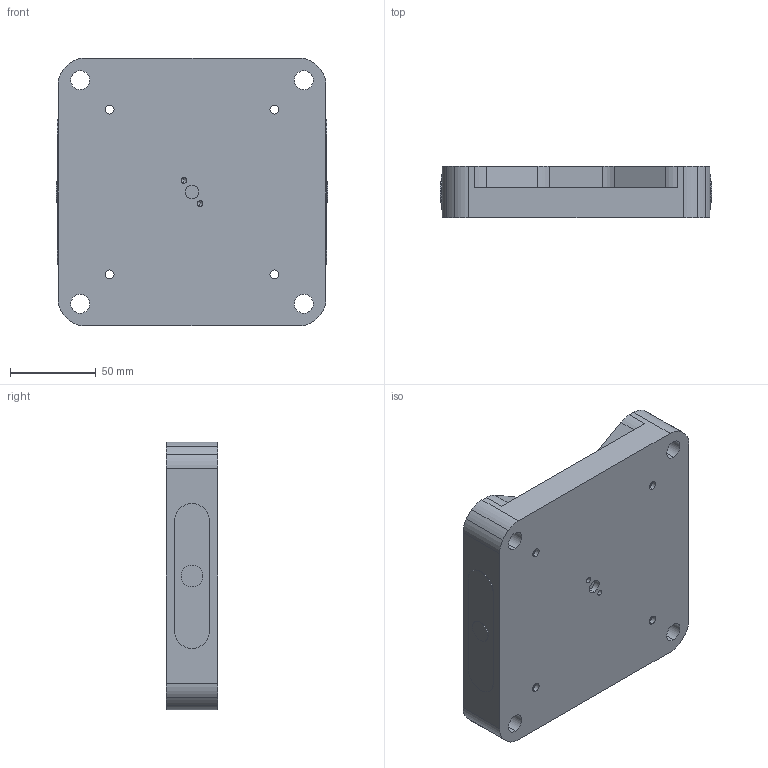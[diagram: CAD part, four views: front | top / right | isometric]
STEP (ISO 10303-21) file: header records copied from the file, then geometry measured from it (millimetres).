
FILE_DESCRIPTION (( 'STEP AP214' ), '1' );
FILE_NAME ('D_RL96A-6790.STEP', '2020-03-11T17:51:44', ( '' ), ( '' ), 'SwSTEP 2.0', 'SolidWorks 2018', '' );
FILE_SCHEMA (( 'AUTOMOTIVE_DESIGN' ));
Length unit declared in the file: inch
Products named in the file (1): D_RL96A-6790
Bounding box: 158 x 30 x 156 mm (x, y, z)
Volume: 527972.6 mm3; surface area: 105979.1 mm2
Topology: 1 solids, 1 shells, 227 faces, 564 edges, 362 vertices
Faces by surface type: cylinder 138, plane 65, cone 24
Entity records: 8018 total; most frequent: CARTESIAN_POINT 1646, DIRECTION 1268, ORIENTED_EDGE 1112, EDGE_CURVE 556, AXIS2_PLACEMENT_3D 514, VERTEX_POINT 362, CIRCLE 286, EDGE_LOOP 282
